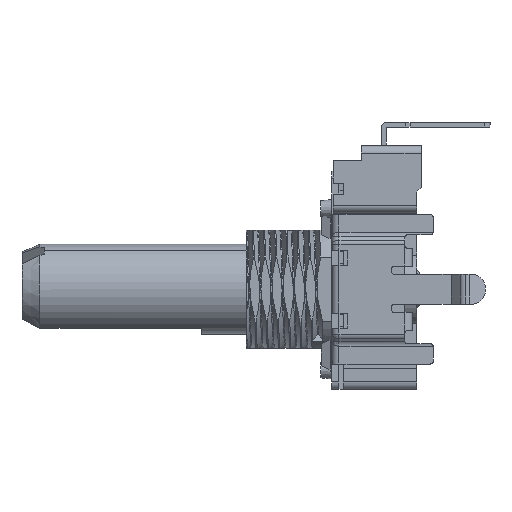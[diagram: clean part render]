
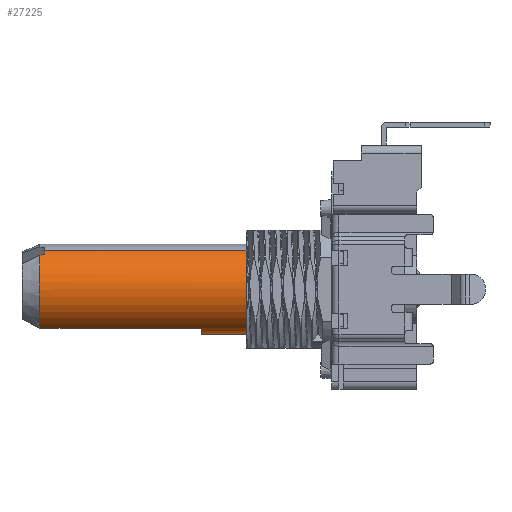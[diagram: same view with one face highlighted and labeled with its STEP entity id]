
A CAD part, left-side view. The second image highlights one B-rep face of the part: STEP entity #27225.
In plain terms, the highlighted cylindrical face has radius 3 mm (diameter 6 mm), a partial arc.
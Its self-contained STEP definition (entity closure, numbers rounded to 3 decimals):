
#180 = CARTESIAN_POINT ( 'NONE',  ( 2.598, 22.6, 1.5 ) ) ;
#470 = DIRECTION ( 'NONE',  ( 0., 1., 0. ) ) ;
#859 = CARTESIAN_POINT ( 'NONE',  ( 0., 2.5, 0. ) ) ;
#1460 = EDGE_CURVE ( 'NONE', #4838, #26101, #23572, .T. ) ;
#1770 = AXIS2_PLACEMENT_3D ( 'NONE', #30230, #2274, #5424 ) ;
#2160 = CARTESIAN_POINT ( 'NONE',  ( 0.533, 22.5, -2.952 ) ) ;
#2274 = DIRECTION ( 'NONE',  ( 0., -1., 0. ) ) ;
#3255 = ORIENTED_EDGE ( 'NONE', *, *, #26339, .T. ) ;
#3393 = CIRCLE ( 'NONE', #5785, 3. ) ;
#4350 = EDGE_CURVE ( 'NONE', #27868, #30909, #3393, .T. ) ;
#4838 = VERTEX_POINT ( 'NONE', #17135 ) ;
#5206 = CARTESIAN_POINT ( 'NONE',  ( 0., 2.5, 3. ) ) ;
#5424 = DIRECTION ( 'NONE',  ( 0., 0., -1. ) ) ;
#5785 = AXIS2_PLACEMENT_3D ( 'NONE', #859, #20498, #11451 ) ;
#6000 = ORIENTED_EDGE ( 'NONE', *, *, #32754, .F. ) ;
#7679 = VECTOR ( 'NONE', #10485, 1000. ) ;
#7899 = DIRECTION ( 'NONE',  ( 0., 0., 1. ) ) ;
#8091 = CARTESIAN_POINT ( 'NONE',  ( 0.517, 22.4, -2.955 ) ) ;
#8546 = EDGE_CURVE ( 'NONE', #26101, #10006, #25130, .T. ) ;
#9665 = VERTEX_POINT ( 'NONE', #180 ) ;
#10006 = VERTEX_POINT ( 'NONE', #10957 ) ;
#10485 = DIRECTION ( 'NONE',  ( 0., -1., 0. ) ) ;
#10957 = CARTESIAN_POINT ( 'NONE',  ( 0., 22.3, -3. ) ) ;
#11089 = CARTESIAN_POINT ( 'NONE',  ( 0.5, 22.3, -2.958 ) ) ;
#11139 = LINE ( 'NONE', #24663, #22395 ) ;
#11451 = DIRECTION ( 'NONE',  ( 0., 0., 1. ) ) ;
#12719 = AXIS2_PLACEMENT_3D ( 'NONE', #17801, #13799, #33399 ) ;
#13799 = DIRECTION ( 'NONE',  ( 0., 1., 0. ) ) ;
#14348 = EDGE_CURVE ( 'NONE', #9665, #4838, #33380, .T. ) ;
#14579 = DIRECTION ( 'NONE',  ( 0., 0., 1. ) ) ;
#15102 = EDGE_CURVE ( 'NONE', #10006, #30909, #23023, .T. ) ;
#15289 = CARTESIAN_POINT ( 'NONE',  ( 0., 11.8, 3. ) ) ;
#15332 = ORIENTED_EDGE ( 'NONE', *, *, #8546, .F. ) ;
#16845 = AXIS2_PLACEMENT_3D ( 'NONE', #36200, #33771, #7899 ) ;
#16895 = CYLINDRICAL_SURFACE ( 'NONE', #1770, 3. ) ;
#17091 = DIRECTION ( 'NONE',  ( 0., -1., 0. ) ) ;
#17135 = CARTESIAN_POINT ( 'NONE',  ( 0.55, 22.6, -2.949 ) ) ;
#17348 = VERTEX_POINT ( 'NONE', #15289 ) ;
#17455 = CARTESIAN_POINT ( 'NONE',  ( 0., 22.6, -3. ) ) ;
#17801 = CARTESIAN_POINT ( 'NONE',  ( 0., 22.3, 0. ) ) ;
#20498 = DIRECTION ( 'NONE',  ( 0., 1., 0. ) ) ;
#21578 = EDGE_CURVE ( 'NONE', #23660, #9665, #11139, .T. ) ;
#21988 = CIRCLE ( 'NONE', #25529, 3. ) ;
#22091 = FACE_OUTER_BOUND ( 'NONE', #35321, .T. ) ;
#22395 = VECTOR ( 'NONE', #22429, 1000. ) ;
#22429 = DIRECTION ( 'NONE',  ( 0., 1., 0. ) ) ;
#23023 = LINE ( 'NONE', #17455, #36368 ) ;
#23572 =( BOUNDED_CURVE ( )  B_SPLINE_CURVE ( 3, ( #33253, #2160, #8091, #30670 ),
 .UNSPECIFIED., .F., .T. ) 
 B_SPLINE_CURVE_WITH_KNOTS ( ( 4, 4 ),
 ( 4.528, 4.545 ),
 .UNSPECIFIED. ) 
 CURVE ( )  GEOMETRIC_REPRESENTATION_ITEM ( )  RATIONAL_B_SPLINE_CURVE ( ( 1., 1., 1., 1. ) ) 
 REPRESENTATION_ITEM ( '' )  );
#23660 = VERTEX_POINT ( 'NONE', #28539 ) ;
#24663 = CARTESIAN_POINT ( 'NONE',  ( 2.598, 11.8, 1.5 ) ) ;
#24913 = CARTESIAN_POINT ( 'NONE',  ( 0., 22.6, 3. ) ) ;
#25130 = CIRCLE ( 'NONE', #12719, 3. ) ;
#25272 = LINE ( 'NONE', #24913, #7679 ) ;
#25376 = ORIENTED_EDGE ( 'NONE', *, *, #1460, .F. ) ;
#25529 = AXIS2_PLACEMENT_3D ( 'NONE', #31211, #470, #14579 ) ;
#26101 = VERTEX_POINT ( 'NONE', #11089 ) ;
#26339 = EDGE_CURVE ( 'NONE', #17348, #27868, #25272, .T. ) ;
#27225 = ADVANCED_FACE ( 'NONE', ( #22091 ), #16895, .T. ) ;
#27868 = VERTEX_POINT ( 'NONE', #5206 ) ;
#28022 = ORIENTED_EDGE ( 'NONE', *, *, #21578, .F. ) ;
#28539 = CARTESIAN_POINT ( 'NONE',  ( 2.598, 11.8, 1.5 ) ) ;
#29882 = ORIENTED_EDGE ( 'NONE', *, *, #4350, .T. ) ;
#30230 = CARTESIAN_POINT ( 'NONE',  ( 0., 22.6, 0. ) ) ;
#30670 = CARTESIAN_POINT ( 'NONE',  ( 0.5, 22.3, -2.958 ) ) ;
#30909 = VERTEX_POINT ( 'NONE', #33038 ) ;
#31211 = CARTESIAN_POINT ( 'NONE',  ( 0., 11.8, 0. ) ) ;
#32754 = EDGE_CURVE ( 'NONE', #17348, #23660, #21988, .T. ) ;
#33038 = CARTESIAN_POINT ( 'NONE',  ( 0., 2.5, -3. ) ) ;
#33253 = CARTESIAN_POINT ( 'NONE',  ( 0.55, 22.6, -2.949 ) ) ;
#33380 = CIRCLE ( 'NONE', #16845, 3. ) ;
#33399 = DIRECTION ( 'NONE',  ( 0., 0., -1. ) ) ;
#33771 = DIRECTION ( 'NONE',  ( 0., 1., 0. ) ) ;
#35321 = EDGE_LOOP ( 'NONE', ( #6000, #3255, #29882, #36403, #15332, #25376, #36268, #28022 ) ) ;
#36200 = CARTESIAN_POINT ( 'NONE',  ( 0., 22.6, 0. ) ) ;
#36268 = ORIENTED_EDGE ( 'NONE', *, *, #14348, .F. ) ;
#36368 = VECTOR ( 'NONE', #17091, 1000. ) ;
#36403 = ORIENTED_EDGE ( 'NONE', *, *, #15102, .F. ) ;
